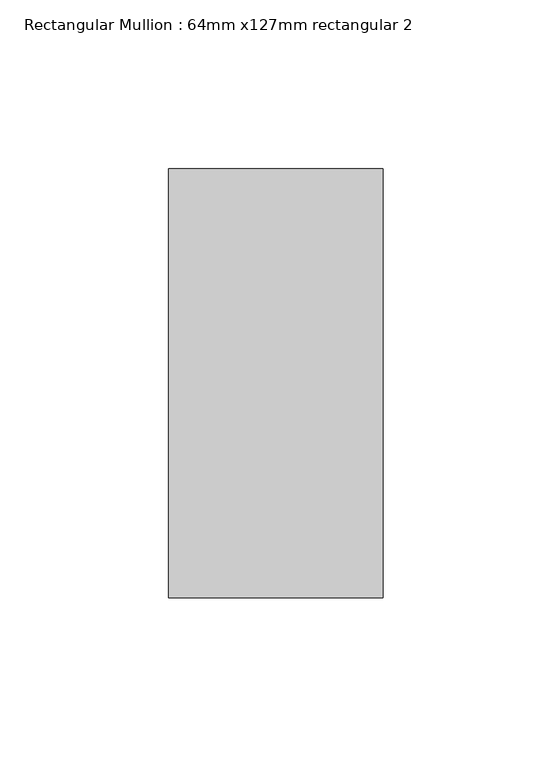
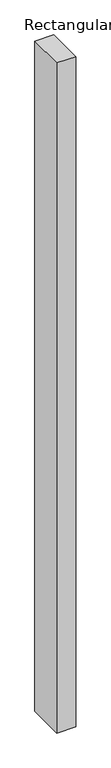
"""IFC4 building model written with IfcOpenShell, lengths in millimetres: member geometry, Rectangular Mullion : 64mm x127mm rectangular 2."""

from ifc_helpers import new_model, si_unit, frame, origin, place, context, project, spatial, polyline, outline, extrude, source, transform, mapped, element, save


def rectangular_mullion_64mm_x127mm_rectangular_2_993caacf(model_context):
    return source(origin(), model_context, "Body", "SweptSolid", [
        extrude(outline(polyline([(0.0, 63.5), (0.0, -63.5), (-63.5, -63.5), (-63.5, 63.5), (0.0, 63.5)])), frame((0.0, 0.0, -2380.4593009), z_axis=(0.0, 0.0, 1.0), x_axis=(1.0, 0.0, 0.0)), (0.0, 0.0, 1.0), 2380.4593009),
    ])


if __name__ == "__main__":
    model = new_model("IFC4")
    model_context = context("Model", 3, world=origin())
    ifc_project = project(units=[si_unit("LENGTHUNIT", "METRE", prefix="MILLI")], contexts=[model_context])
    site = spatial("IfcSite", under=ifc_project)
    building = spatial("IfcBuilding", under=site)
    placement = place(None, origin())
    rectangular_mullion_64mm_x127mm_rectangular_2_shape = rectangular_mullion_64mm_x127mm_rectangular_2_993caacf(model_context)
    element("IfcMember", 1, ObjectType="Rectangular Mullion : 64mm x127mm rectangular 2", at=placement, inside=building, context=model_context, shape_type="MappedRepresentation", body=[
        mapped(rectangular_mullion_64mm_x127mm_rectangular_2_shape, transform((0.0, 0.0, 0.0), x_axis=(1.0, 0.0, 0.0), y_axis=(0.0, 1.0, 0.0), z_axis=(0.0, 0.0, 1.0))),
    ])
    save(model, "model.ifc")
